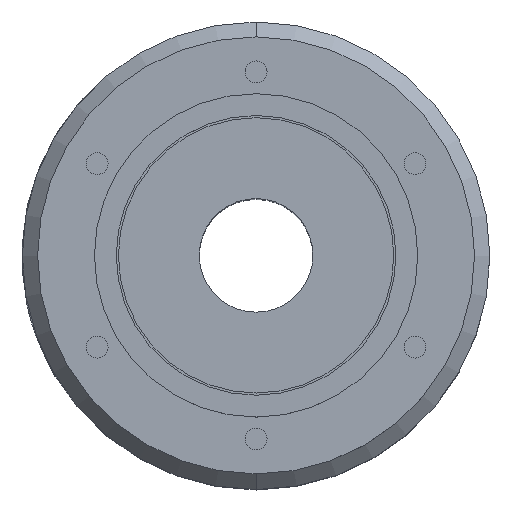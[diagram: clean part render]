
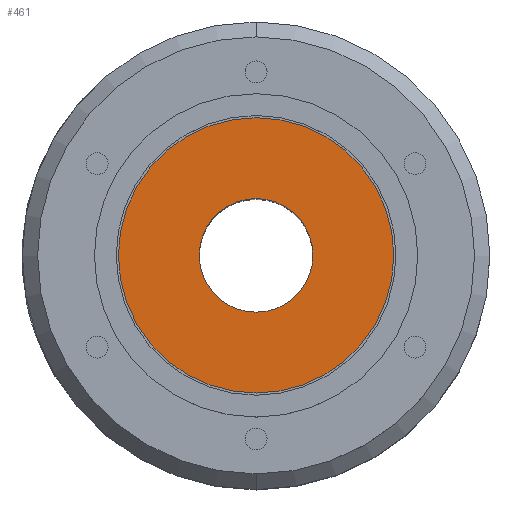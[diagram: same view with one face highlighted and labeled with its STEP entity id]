
A CAD part, top view. The second image highlights one B-rep face of the part: STEP entity #461.
In plain terms, the highlighted planar face has unit normal (0, 0, 1).
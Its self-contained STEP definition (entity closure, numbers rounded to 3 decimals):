
#397 = EDGE_LOOP ( 'NONE', ( #403, #444 ) ) ;
#403 = ORIENTED_EDGE ( 'NONE', *, *, #453, .T. ) ;
#444 = ORIENTED_EDGE ( 'NONE', *, *, #3568, .T. ) ;
#449 = ORIENTED_EDGE ( 'NONE', *, *, #3912, .T. ) ;
#451 = EDGE_LOOP ( 'NONE', ( #449, #452 ) ) ;
#452 = ORIENTED_EDGE ( 'NONE', *, *, #454, .T. ) ;
#453 = EDGE_CURVE ( 'NONE', #3573, #3566, #1654, .T. ) ;
#454 = EDGE_CURVE ( 'NONE', #3815, #3908, #1608, .T. ) ;
#461 = ADVANCED_FACE ( 'NONE', ( #1641, #1655 ), #1653, .T. ) ;
#1608 = CIRCLE ( 'NONE', #1649, 31.5 ) ;
#1619 = CARTESIAN_POINT ( 'NONE',  ( 0., 0., 113. ) ) ;
#1632 = DIRECTION ( 'NONE',  ( 0., -1., 0. ) ) ;
#1633 = DIRECTION ( 'NONE',  ( 0., 0., 1. ) ) ;
#1641 = FACE_BOUND ( 'NONE', #397, .T. ) ;
#1643 = AXIS2_PLACEMENT_3D ( 'NONE', #1647, #1633, #1632 ) ;
#1644 = DIRECTION ( 'NONE',  ( 1., 0., 0. ) ) ;
#1645 = DIRECTION ( 'NONE',  ( 0., 0., 1. ) ) ;
#1647 = CARTESIAN_POINT ( 'NONE',  ( 0., -13., 113. ) ) ;
#1649 = AXIS2_PLACEMENT_3D ( 'NONE', #1619, #1645, #1644 ) ;
#1650 = DIRECTION ( 'NONE',  ( 0., 1., 0. ) ) ;
#1651 = DIRECTION ( 'NONE',  ( 0., 0., -1. ) ) ;
#1652 = CARTESIAN_POINT ( 'NONE',  ( 0., 0., 113. ) ) ;
#1653 = PLANE ( 'NONE',  #1643 ) ;
#1654 = CIRCLE ( 'NONE', #1660, 13. ) ;
#1655 = FACE_OUTER_BOUND ( 'NONE', #451, .T. ) ;
#1660 = AXIS2_PLACEMENT_3D ( 'NONE', #1652, #1651, #1650 ) ;
#2365 = CIRCLE ( 'NONE', #2414, 13. ) ;
#2372 = CARTESIAN_POINT ( 'NONE',  ( 0., -13., 113. ) ) ;
#2405 = CARTESIAN_POINT ( 'NONE',  ( 0., 13., 113. ) ) ;
#2411 = DIRECTION ( 'NONE',  ( 0., 1., 0. ) ) ;
#2412 = DIRECTION ( 'NONE',  ( 0., 0., -1. ) ) ;
#2413 = CARTESIAN_POINT ( 'NONE',  ( 0., 0., 113. ) ) ;
#2414 = AXIS2_PLACEMENT_3D ( 'NONE', #2413, #2412, #2411 ) ;
#2868 = CARTESIAN_POINT ( 'NONE',  ( -31.5, 0., 113. ) ) ;
#3038 = CARTESIAN_POINT ( 'NONE',  ( 0., 0., 113. ) ) ;
#3066 = DIRECTION ( 'NONE',  ( 1., 0., 0. ) ) ;
#3067 = DIRECTION ( 'NONE',  ( 0., 0., 1. ) ) ;
#3068 = AXIS2_PLACEMENT_3D ( 'NONE', #3038, #3067, #3066 ) ;
#3074 = CIRCLE ( 'NONE', #3068, 31.5 ) ;
#3075 = CARTESIAN_POINT ( 'NONE',  ( 31.5, 0., 113. ) ) ;
#3566 = VERTEX_POINT ( 'NONE', #2372 ) ;
#3568 = EDGE_CURVE ( 'NONE', #3566, #3573, #2365, .T. ) ;
#3573 = VERTEX_POINT ( 'NONE', #2405 ) ;
#3815 = VERTEX_POINT ( 'NONE', #2868 ) ;
#3908 = VERTEX_POINT ( 'NONE', #3075 ) ;
#3912 = EDGE_CURVE ( 'NONE', #3908, #3815, #3074, .T. ) ;
